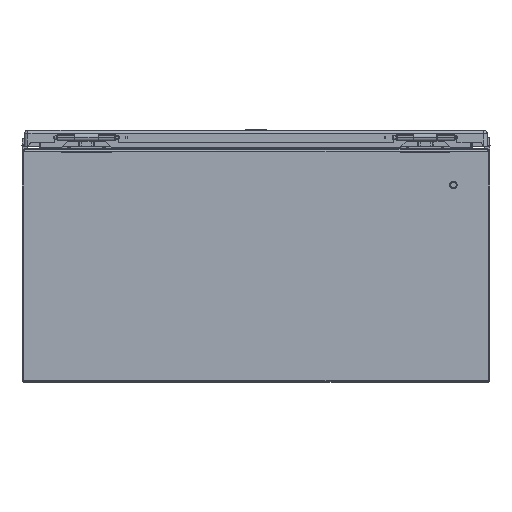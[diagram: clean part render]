
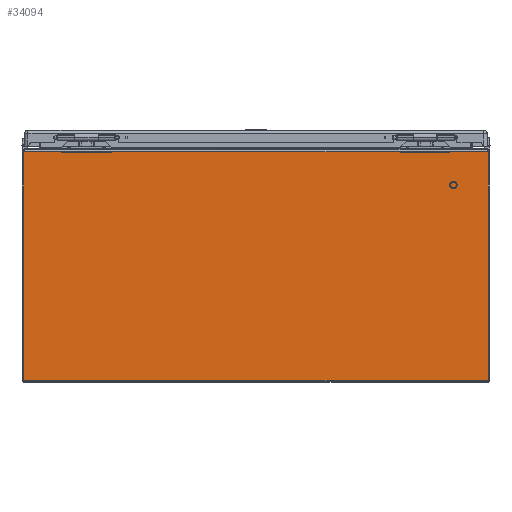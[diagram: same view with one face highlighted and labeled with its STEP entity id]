
A CAD part, left-side view. The second image highlights one B-rep face of the part: STEP entity #34094.
In plain terms, the highlighted planar face has unit normal (-1, 0, 0).
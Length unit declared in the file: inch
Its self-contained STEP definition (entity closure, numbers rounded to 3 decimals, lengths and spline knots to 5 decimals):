
#5015 = CARTESIAN_POINT ( 'NONE',  ( -12., -9.94693, 9.859 ) ) ;
#5021 = CARTESIAN_POINT ( 'NONE',  ( -12., -9.94693, 0.097 ) ) ;
#7422 = DIRECTION ( 'NONE',  ( 0., 0., -1. ) ) ;
#7424 = DIRECTION ( 'NONE',  ( -1., 0., 0. ) ) ;
#7429 = PLANE ( 'NONE',  #21196 ) ;
#7432 = CARTESIAN_POINT ( 'NONE',  ( -12., 130., 9.859 ) ) ;
#14739 = VERTEX_POINT ( 'NONE', #23933 ) ;
#15147 = VERTEX_POINT ( 'NONE', #22575 ) ;
#21196 = AXIS2_PLACEMENT_3D ( 'NONE', #7432, #7424, #7422 ) ;
#21838 = FACE_OUTER_BOUND ( 'NONE', #26627, .T. ) ;
#22575 = CARTESIAN_POINT ( 'NONE',  ( -12., 9.94693, 9.859 ) ) ;
#23933 = CARTESIAN_POINT ( 'NONE',  ( -12., 9.94693, 0.097 ) ) ;
#26627 = EDGE_LOOP ( 'NONE', ( #27004, #26994, #26997, #26986 ) ) ;
#26986 = ORIENTED_EDGE ( 'NONE', *, *, #28259, .T. ) ;
#26994 = ORIENTED_EDGE ( 'NONE', *, *, #28294, .F. ) ;
#26997 = ORIENTED_EDGE ( 'NONE', *, *, #28085, .T. ) ;
#27004 = ORIENTED_EDGE ( 'NONE', *, *, #28034, .T. ) ;
#28034 = EDGE_CURVE ( 'NONE', #41964, #41954, #31669, .T. ) ;
#28085 = EDGE_CURVE ( 'NONE', #15147, #14739, #31691, .T. ) ;
#28259 = EDGE_CURVE ( 'NONE', #14739, #41964, #31773, .T. ) ;
#28294 = EDGE_CURVE ( 'NONE', #15147, #41954, #31791, .T. ) ;
#31666 = VECTOR ( 'NONE', #44620, 39.37008 ) ;
#31669 = LINE ( 'NONE', #44627, #31666 ) ;
#31691 = LINE ( 'NONE', #44575, #31694 ) ;
#31694 = VECTOR ( 'NONE', #44570, 39.37008 ) ;
#31773 = LINE ( 'NONE', #44386, #31778 ) ;
#31778 = VECTOR ( 'NONE', #44383, 39.37008 ) ;
#31791 = LINE ( 'NONE', #44355, #31795 ) ;
#31795 = VECTOR ( 'NONE', #44353, 39.37008 ) ;
#34094 = ADVANCED_FACE ( 'NONE', ( #21838 ), #7429, .T. ) ;
#41954 = VERTEX_POINT ( 'NONE', #5015 ) ;
#41964 = VERTEX_POINT ( 'NONE', #5021 ) ;
#44353 = DIRECTION ( 'NONE',  ( 0., -1., 0. ) ) ;
#44355 = CARTESIAN_POINT ( 'NONE',  ( -12., 130., 9.859 ) ) ;
#44383 = DIRECTION ( 'NONE',  ( 0., -1., 0. ) ) ;
#44386 = CARTESIAN_POINT ( 'NONE',  ( -12., 130., 0.097 ) ) ;
#44570 = DIRECTION ( 'NONE',  ( 0., 0., -1. ) ) ;
#44575 = CARTESIAN_POINT ( 'NONE',  ( -12., 9.94693, 9.859 ) ) ;
#44620 = DIRECTION ( 'NONE',  ( 0., 0., 1. ) ) ;
#44627 = CARTESIAN_POINT ( 'NONE',  ( -12., -9.94693, 9.859 ) ) ;
